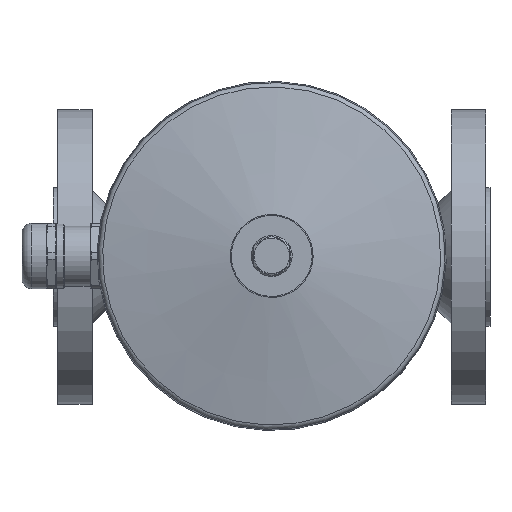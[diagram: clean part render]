
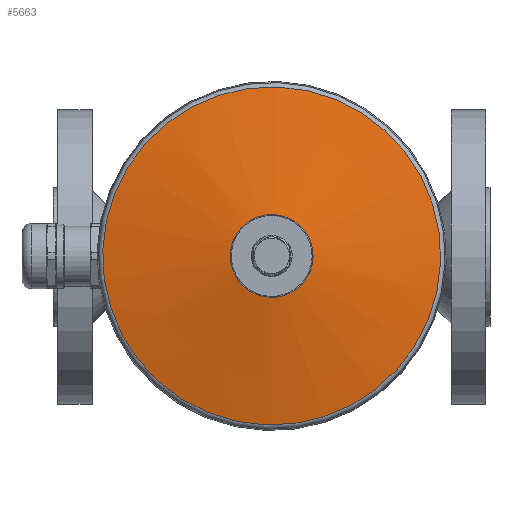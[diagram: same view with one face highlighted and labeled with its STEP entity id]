
A CAD part, top view. The second image highlights one B-rep face of the part: STEP entity #5663.
In plain terms, the highlighted conical face has half-angle 79.29 degrees and reference radius 38.57 mm.
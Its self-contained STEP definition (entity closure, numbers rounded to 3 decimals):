
#5632=CARTESIAN_POINT('',(-60.572,12.987,226.922));
#5633=VERTEX_POINT('',#5632);
#5634=CARTESIAN_POINT('',(0.,0.,226.922));
#5635=DIRECTION('',(0.,0.,-1.0));
#5636=DIRECTION('',(-0.978,0.21,0.));
#5637=AXIS2_PLACEMENT_3D('',#5634,#5635,#5636);
#5638=CIRCLE('',#5637,61.948);
#5639=EDGE_CURVE('',#5633,#5633,#5638,.T.);
#5644=CARTESIAN_POINT('',(0.,0.,231.344));
#5645=DIRECTION('',(0.,0.,-1.0));
#5646=DIRECTION('',(-0.978,0.21,0.));
#5647=AXIS2_PLACEMENT_3D('',#5644,#5645,#5646);
#5648=CONICAL_SURFACE('',#5647,38.57,79.29);
#5649=ORIENTED_EDGE('',*,*,#5639,.F.);
#5650=EDGE_LOOP('',(#5649));
#5651=FACE_OUTER_BOUND('',#5650,.T.);
#5652=CARTESIAN_POINT('',(-14.855,3.185,235.765));
#5653=VERTEX_POINT('',#5652);
#5654=CARTESIAN_POINT('',(0.,0.,235.765));
#5655=DIRECTION('',(0.,0.,-1.));
#5656=DIRECTION('',(-0.978,0.21,0.));
#5657=AXIS2_PLACEMENT_3D('',#5654,#5655,#5656);
#5658=CIRCLE('',#5657,15.192);
#5659=EDGE_CURVE('',#5653,#5653,#5658,.T.);
#5660=ORIENTED_EDGE('',*,*,#5659,.T.);
#5661=EDGE_LOOP('',(#5660));
#5662=FACE_BOUND('',#5661,.T.);
#5663=ADVANCED_FACE('',(#5651,#5662),#5648,.T.);
